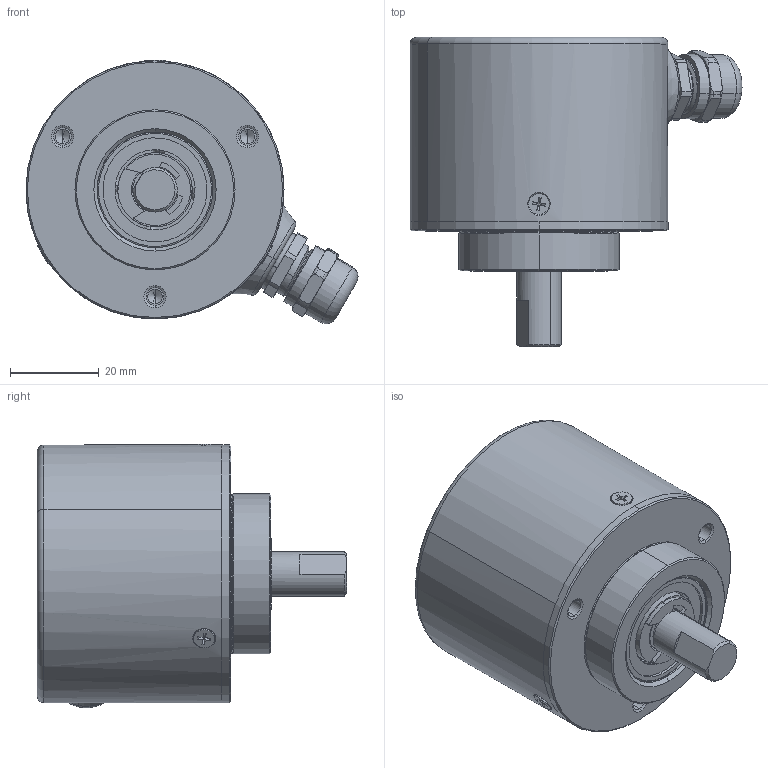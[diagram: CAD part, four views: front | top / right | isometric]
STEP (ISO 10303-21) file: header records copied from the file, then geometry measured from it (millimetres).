
FILE_DESCRIPTION (( 'STEP AP203' ), '1' );
FILE_NAME ('B-ZSP5810.STEP', '2021-07-22T00:32:41', ( 'Windows 蚚誧' ), ( '' ), 'SwSTEP 2.0', 'SolidWorks 2018', '' );
FILE_SCHEMA (( 'CONFIG_CONTROL_DESIGN' ));
Length unit declared in the file: millimetre
Products named in the file (24): B-ZSP5810; GBT276_6W-608-2RZ_GBT276_6W-2RZ_608-2RZ; 湮滅阨脣芛摴1裔; 鎢攫360; 湮滅阨脣芛摴1; 01-58H21-2017; 06-6.01-2017; 大防水插头螺丝帽; 07-6H9.3_4-2017; 05-M2H12.8-2017; 03-58H42_2G-2017蚾饜; 02-10L50-2017; 50.54b-2016啣; GBT896-8_GBT896_8; GBT819_2-M2.5+5坋趼麥芛蹟隊; 50.54B.2016蚾饜极1; 12-5.01-2017; 03-58H42_2G-2017; M2X5圆头螺钉_狭缝座子装配体3; 狫瑜360; GBT276_6000-2RZ_GBT276_6W-2RZ_6000-2RZ; 04-24H8-2017蚾饜-俔褐; 防水胶圈1
Assembly tree (29 placements, depth 4):
  B-ZSP5810
    01-58H21-2017
    07-6H9.3_4-2017
    02-10L50-2017
    GBT819_2-M2.5+5坋趼麥芛蹟隊  x3
    03-58H42_2G-2017蚾饜
      03-58H42_2G-2017
      湮滅阨脣芛摴1
        湮滅阨脣芛摴1
        防水胶圈1
        湮滅阨脣芛摴1裔
      大防水插头螺丝帽
    GBT896-8_GBT896_8
    04-24H8-2017蚾饜-俔褐
      12-5.01-2017
      狫瑜360
    GBT276_6W-608-2RZ_GBT276_6W-2RZ_608-2RZ
    鎢攫360
    06-6.01-2017
    05-M2H12.8-2017  x3
    50.54B.2016蚾饜极1
      50.54b-2016啣
    M2X5圆头螺钉_狭缝座子装配体3  x3
    GBT276_6000-2RZ_GBT276_6W-2RZ_6000-2RZ
Bounding box: 74.64 x 69.55 x 59.26 mm (x, y, z)
Volume: 50709.1 mm3; surface area: 46816.2 mm2
Topology: 25 solids, 25 shells, 3666 faces, 9157 edges, 6002 vertices
Faces by surface type: plane 1698, cylinder 1498, cone 172, bspline 140, torus 94, sphere 64
Entity records: 116740 total; most frequent: CARTESIAN_POINT 32640, DIRECTION 16997, ORIENTED_EDGE 16718, EDGE_CURVE 8359, AXIS2_PLACEMENT_3D 6165, VERTEX_POINT 5506, LINE 4667, VECTOR 4667
